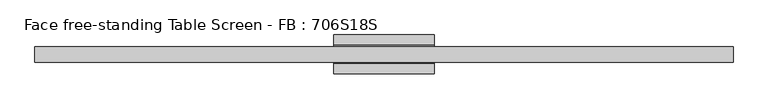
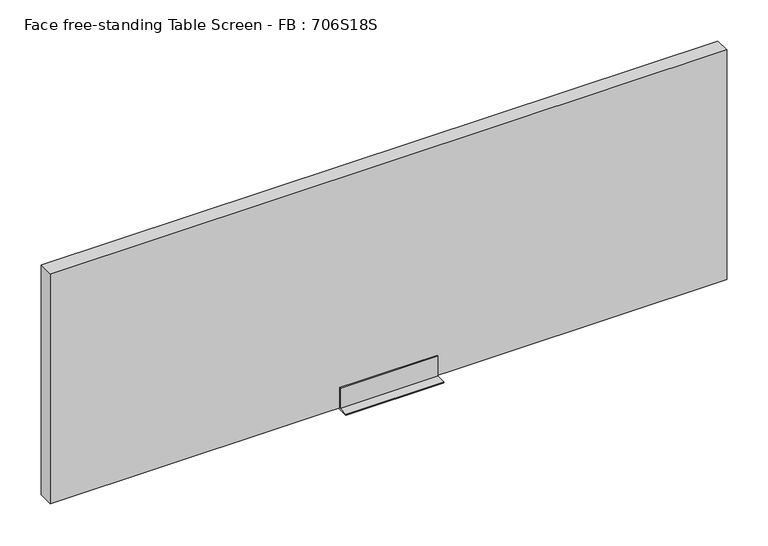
"""IFC4 building model written with IfcOpenShell, lengths in millimetres: furniture geometry, Face free-standing Table Screen - FB : 706S18S."""

from ifc_helpers import new_model, si_unit, frame, origin, place, context, project, spatial, polyline, outline, extrude, source, transform, mapped, element, save


def face_free_standing_table_screen_fb_706s18s_6387123e(model_context):
    return source(origin(), model_context, "Body", "SweptSolid", [
        extrude(outline(polyline([(-50.0, 3.0), (-22.999995, 3.0), (-23.0, 60.0), (-20.0, 60.0), (-20.0, 3.0), (20.0, 3.0), (20.0, 60.0), (23.0, 60.0), (22.999995, 3.0), (50.0, 3.0), (50.0, 0.0), (-50.0, 0.0), (-50.0, 3.0)])), frame((-130.0, 0.0, 0.0), z_axis=(1.0, 0.0, 0.0), x_axis=(0.0, 1.0, 0.0)), (0.0, 0.0, 1.0), 260.0),
        extrude(outline(polyline([(900.0, -20.0), (-900.0, -20.0), (-900.0, 20.0), (900.0, 20.0), (900.0, -20.0)])), frame((0.0, 0.0, 3.0), z_axis=(0.0, 0.0, 1.0), x_axis=(1.0, 0.0, 0.0)), (0.0, 0.0, 1.0), 647.0),
    ])


if __name__ == "__main__":
    model = new_model("IFC4")
    model_context = context("Model", 3, world=origin())
    ifc_project = project(units=[si_unit("LENGTHUNIT", "METRE", prefix="MILLI")], contexts=[model_context])
    site = spatial("IfcSite", under=ifc_project)
    building = spatial("IfcBuilding", under=site)
    placement = place(None, origin())
    face_free_standing_table_screen_fb_706s18s_shape = face_free_standing_table_screen_fb_706s18s_6387123e(model_context)
    element("IfcFurniture", 1, ObjectType="Face free-standing Table Screen - FB : 706S18S", at=placement, inside=building, context=model_context, shape_type="MappedRepresentation", body=[
        mapped(face_free_standing_table_screen_fb_706s18s_shape, transform((0.0, 0.0, 0.0), x_axis=(1.0, 0.0, 0.0), y_axis=(0.0, 1.0, 0.0), z_axis=(0.0, 0.0, 1.0))),
    ])
    save(model, "model.ifc")
